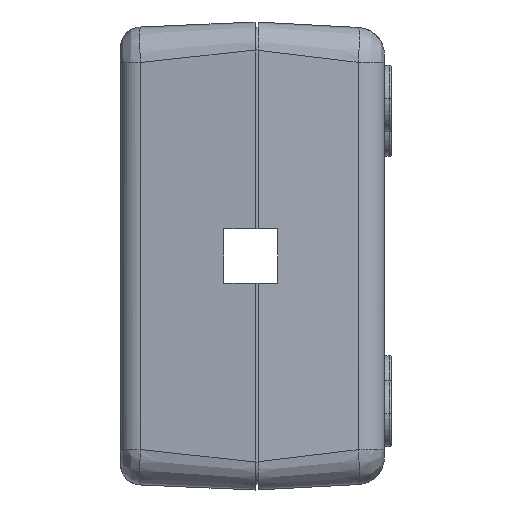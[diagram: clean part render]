
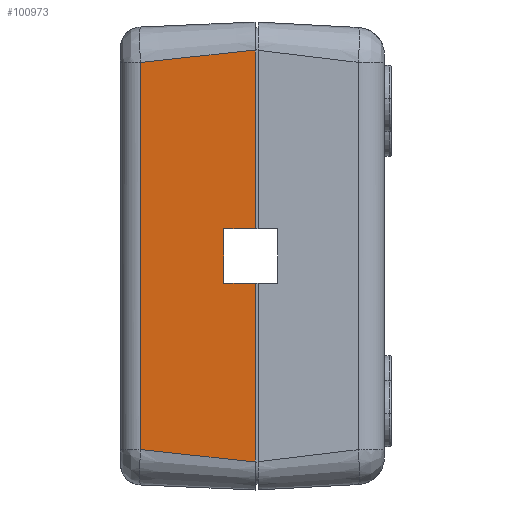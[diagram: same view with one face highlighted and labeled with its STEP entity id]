
A CAD part, left-side view. The second image highlights one B-rep face of the part: STEP entity #100973.
In plain terms, the highlighted planar face has unit normal (-0.999, 0.044, 0).
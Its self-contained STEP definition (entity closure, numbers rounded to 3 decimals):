
#498 = ORIENTED_EDGE ( 'NONE', *, *, #73716, .T. ) ;
#505 = CARTESIAN_POINT ( 'NONE',  ( -84.135, 8.365, 28.584 ) ) ;
#1878 = ORIENTED_EDGE ( 'NONE', *, *, #2949, .T. ) ;
#2949 = EDGE_CURVE ( 'NONE', #51606, #141880, #174065, .T. ) ;
#12104 = CARTESIAN_POINT ( 'NONE',  ( -83.783, 16.431, 27.709 ) ) ;
#13210 = EDGE_CURVE ( 'NONE', #141880, #179970, #120883, .T. ) ;
#15739 = VECTOR ( 'NONE', #89029, 1000. ) ;
#20220 = VERTEX_POINT ( 'NONE', #51216 ) ;
#25130 = VERTEX_POINT ( 'NONE', #43514 ) ;
#26354 = LINE ( 'NONE', #38940, #15739 ) ;
#27752 = VECTOR ( 'NONE', #77000, 1000. ) ;
#36604 = CARTESIAN_POINT ( 'NONE',  ( -84.5, 0., 29.493 ) ) ;
#38940 = CARTESIAN_POINT ( 'NONE',  ( -84.5, 0., 3.9 ) ) ;
#39447 = DIRECTION ( 'NONE',  ( 0.044, 0.999, 0. ) ) ;
#42130 = ORIENTED_EDGE ( 'NONE', *, *, #13210, .T. ) ;
#43514 = CARTESIAN_POINT ( 'NONE',  ( -84.5, 0., -29.493 ) ) ;
#51216 = CARTESIAN_POINT ( 'NONE',  ( -83.783, 16.431, -27.709 ) ) ;
#51354 = CARTESIAN_POINT ( 'NONE',  ( -84.141, 8.222, 28.6 ) ) ;
#51606 = VERTEX_POINT ( 'NONE', #92928 ) ;
#54170 = CARTESIAN_POINT ( 'NONE',  ( -83.783, 16.431, 27.709 ) ) ;
#56120 = CARTESIAN_POINT ( 'NONE',  ( -84.304, 4.5, -3.9 ) ) ;
#58078 = VERTEX_POINT ( 'NONE', #191887 ) ;
#59130 = CARTESIAN_POINT ( 'NONE',  ( -84.115, 8.814, 28.536 ) ) ;
#62286 = ORIENTED_EDGE ( 'NONE', *, *, #65678, .T. ) ;
#63724 = CARTESIAN_POINT ( 'NONE',  ( -84.304, 4.5, 3.9 ) ) ;
#65678 = EDGE_CURVE ( 'NONE', #20220, #25130, #169025, .T. ) ;
#68921 = DIRECTION ( 'NONE',  ( 0., 0., 1. ) ) ;
#69123 = CARTESIAN_POINT ( 'NONE',  ( -84.141, 8.226, 28.6 ) ) ;
#71825 = DIRECTION ( 'NONE',  ( 0., 0., 1. ) ) ;
#73716 = EDGE_CURVE ( 'NONE', #110186, #20220, #96594, .T. ) ;
#77000 = DIRECTION ( 'NONE',  ( 0.044, 0.999, 0. ) ) ;
#78814 = EDGE_CURVE ( 'NONE', #51606, #25130, #186234, .T. ) ;
#85072 = ORIENTED_EDGE ( 'NONE', *, *, #199121, .F. ) ;
#85392 = CARTESIAN_POINT ( 'NONE',  ( -84.304, 4.5, -3.9 ) ) ;
#87997 = CARTESIAN_POINT ( 'NONE',  ( -83.783, 16.431, 9.236 ) ) ;
#89029 = DIRECTION ( 'NONE',  ( 0., 0., 1. ) ) ;
#89037 = CARTESIAN_POINT ( 'NONE',  ( -83.783, 16.431, 27.709 ) ) ;
#90567 = LINE ( 'NONE', #120897, #101817 ) ;
#92928 = CARTESIAN_POINT ( 'NONE',  ( -84.5, 0., -3.9 ) ) ;
#95253 = EDGE_CURVE ( 'NONE', #58078, #175725, #26354, .T. ) ;
#96594 = B_SPLINE_CURVE_WITH_KNOTS ( 'NONE', 3,
 ( #89037, #87997, #123521, #137105 ),
 .UNSPECIFIED., .F., .F.,
 ( 4, 4 ),
 ( 0., 1. ),
 .UNSPECIFIED. ) ;
#97211 = B_SPLINE_CURVE_WITH_KNOTS ( 'NONE', 3,
 ( #12104, #158295, #122860, #140590, #111277, #59130, #204212, #505, #197484, #103513, #101485, #69123, #51354, #182872, #134899, #131832 ),
 .UNSPECIFIED., .F., .F.,
 ( 4, 1, 1, 1, 1, 1, 1, 1, 1, 2, 2, 4 ),
 ( 0., 0.25, 0.375, 0.438, 0.469, 0.484, 0.492, 0.496, 0.498, 0.499, 0.5, 1. ),
 .UNSPECIFIED. ) ;
#97765 = VECTOR ( 'NONE', #71825, 1000. ) ;
#100973 = ADVANCED_FACE ( 'NONE', ( #113856 ), #178579, .T. ) ;
#101485 = CARTESIAN_POINT ( 'NONE',  ( -84.14, 8.237, 28.598 ) ) ;
#101817 = VECTOR ( 'NONE', #39447, 1000. ) ;
#102010 = AXIS2_PLACEMENT_3D ( 'NONE', #146237, #161917, #68921 ) ;
#102715 = CARTESIAN_POINT ( 'NONE',  ( -83.783, 16.431, -27.709 ) ) ;
#103513 = CARTESIAN_POINT ( 'NONE',  ( -84.14, 8.253, 28.597 ) ) ;
#106906 = CARTESIAN_POINT ( 'NONE',  ( -84.5, 0., -3.9 ) ) ;
#110186 = VERTEX_POINT ( 'NONE', #54170 ) ;
#111277 = CARTESIAN_POINT ( 'NONE',  ( -84.089, 9.414, 28.471 ) ) ;
#113856 = FACE_OUTER_BOUND ( 'NONE', #202539, .T. ) ;
#120101 = VECTOR ( 'NONE', #154962, 1000. ) ;
#120883 = LINE ( 'NONE', #56120, #97765 ) ;
#120897 = CARTESIAN_POINT ( 'NONE',  ( -84.5, 0., 3.9 ) ) ;
#122860 = CARTESIAN_POINT ( 'NONE',  ( -83.932, 13.008, 28.081 ) ) ;
#123521 = CARTESIAN_POINT ( 'NONE',  ( -83.783, 16.431, -9.236 ) ) ;
#127115 = CARTESIAN_POINT ( 'NONE',  ( -84.5, 0., -3.9 ) ) ;
#131832 = CARTESIAN_POINT ( 'NONE',  ( -84.5, 0., 29.493 ) ) ;
#134068 = CARTESIAN_POINT ( 'NONE',  ( -84.5, 0., -29.493 ) ) ;
#134899 = CARTESIAN_POINT ( 'NONE',  ( -84.408, 2.104, 29.264 ) ) ;
#137105 = CARTESIAN_POINT ( 'NONE',  ( -83.783, 16.431, -27.709 ) ) ;
#140590 = CARTESIAN_POINT ( 'NONE',  ( -84.037, 10.612, 28.341 ) ) ;
#141880 = VERTEX_POINT ( 'NONE', #85392 ) ;
#145469 = ORIENTED_EDGE ( 'NONE', *, *, #146577, .F. ) ;
#146237 = CARTESIAN_POINT ( 'NONE',  ( -84.5, 0., -3.274 ) ) ;
#146577 = EDGE_CURVE ( 'NONE', #58078, #179970, #90567, .T. ) ;
#150735 = CARTESIAN_POINT ( 'NONE',  ( -84.261, 5.477, -28.898 ) ) ;
#154962 = DIRECTION ( 'NONE',  ( 0., 0., -1. ) ) ;
#158295 = CARTESIAN_POINT ( 'NONE',  ( -83.842, 15.062, 27.858 ) ) ;
#161917 = DIRECTION ( 'NONE',  ( -0.999, 0.044, 0. ) ) ;
#166383 = CARTESIAN_POINT ( 'NONE',  ( -84.022, 10.954, -28.303 ) ) ;
#169025 = B_SPLINE_CURVE_WITH_KNOTS ( 'NONE', 3,
 ( #102715, #166383, #150735, #134068 ),
 .UNSPECIFIED., .F., .F.,
 ( 4, 4 ),
 ( 0., 1. ),
 .UNSPECIFIED. ) ;
#174065 = LINE ( 'NONE', #127115, #27752 ) ;
#175725 = VERTEX_POINT ( 'NONE', #36604 ) ;
#178579 = PLANE ( 'NONE',  #102010 ) ;
#179970 = VERTEX_POINT ( 'NONE', #63724 ) ;
#180423 = ORIENTED_EDGE ( 'NONE', *, *, #95253, .T. ) ;
#182872 = CARTESIAN_POINT ( 'NONE',  ( -84.289, 4.843, 28.967 ) ) ;
#186234 = LINE ( 'NONE', #106906, #120101 ) ;
#191887 = CARTESIAN_POINT ( 'NONE',  ( -84.5, 0., 3.9 ) ) ;
#197484 = CARTESIAN_POINT ( 'NONE',  ( -84.138, 8.29, 28.593 ) ) ;
#199121 = EDGE_CURVE ( 'NONE', #110186, #175725, #97211, .T. ) ;
#202088 = ORIENTED_EDGE ( 'NONE', *, *, #78814, .F. ) ;
#202539 = EDGE_LOOP ( 'NONE', ( #145469, #180423, #85072, #498, #62286, #202088, #1878, #42130 ) ) ;
#204212 = CARTESIAN_POINT ( 'NONE',  ( -84.128, 8.515, 28.568 ) ) ;
